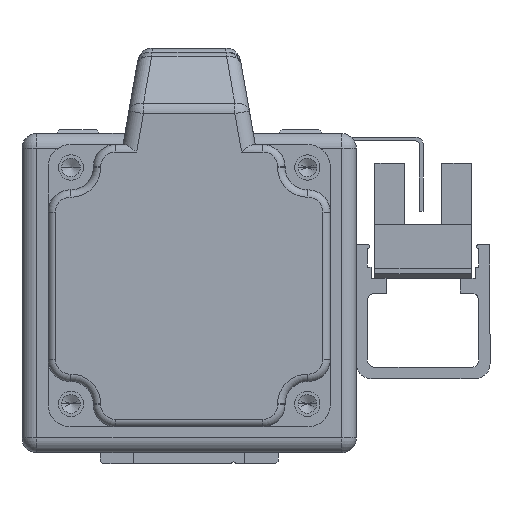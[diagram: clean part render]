
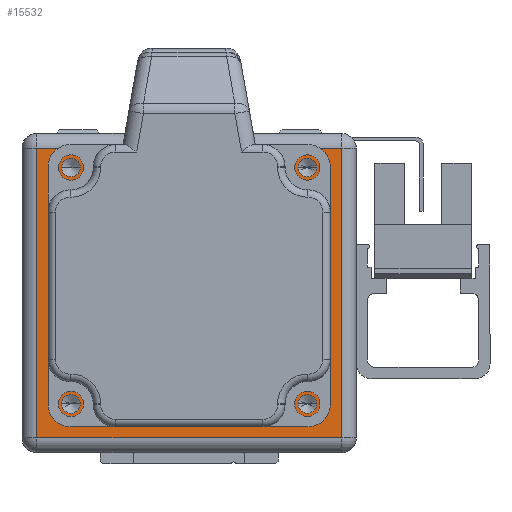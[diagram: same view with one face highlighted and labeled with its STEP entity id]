
A CAD part, left-side view. The second image highlights one B-rep face of the part: STEP entity #15532.
In plain terms, the highlighted planar face has unit normal (-1, 0, 0) as drawn and (0, 0, -1) by its records, which use the part's own axes.
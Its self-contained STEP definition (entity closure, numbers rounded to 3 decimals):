
#346 = EDGE_LOOP ( 'NONE', ( #24810, #25019, #25111, #25214 ) ) ;
#402 = DIRECTION ( 'NONE',  ( -1., 0., 0. ) ) ;
#411 = EDGE_LOOP ( 'NONE', ( #23321, #23692 ) ) ;
#451 = DIRECTION ( 'NONE',  ( 0., 0., -1. ) ) ;
#490 = CARTESIAN_POINT ( 'NONE',  ( 15.91, 16.91, 0. ) ) ;
#512 = EDGE_LOOP ( 'NONE', ( #23919, #24146 ) ) ;
#543 = EDGE_LOOP ( 'NONE', ( #22287, #22727 ) ) ;
#915 = CARTESIAN_POINT ( 'NONE',  ( -17.16, 16.91, 0. ) ) ;
#927 = EDGE_LOOP ( 'NONE', ( #24175, #24529 ) ) ;
#1202 = EDGE_LOOP ( 'NONE', ( #22955, #23175 ) ) ;
#1483 = VERTEX_POINT ( 'NONE', #915 ) ;
#1565 = CARTESIAN_POINT ( 'NONE',  ( -20.5, 19.5, 0. ) ) ;
#1799 = CARTESIAN_POINT ( 'NONE',  ( -17.16, -14.91, 0. ) ) ;
#2160 = DIRECTION ( 'NONE',  ( -1., 0., 0. ) ) ;
#2193 = DIRECTION ( 'NONE',  ( 0., 0., -1. ) ) ;
#2198 = CARTESIAN_POINT ( 'NONE',  ( 15.91, 16.91, 0. ) ) ;
#2746 = CARTESIAN_POINT ( 'NONE',  ( -15.5, 1., 0. ) ) ;
#3103 = VERTEX_POINT ( 'NONE', #28943 ) ;
#3343 = AXIS2_PLACEMENT_3D ( 'NONE', #16887, #16858, #16818 ) ;
#4298 = VERTEX_POINT ( 'NONE', #28219 ) ;
#4381 = CARTESIAN_POINT ( 'NONE',  ( 0., 1., 0. ) ) ;
#4494 = CARTESIAN_POINT ( 'NONE',  ( 22.5, 19.5, 0. ) ) ;
#5873 = CIRCLE ( 'NONE', #14646, 1.25 ) ;
#5891 = DIRECTION ( 'NONE',  ( 0., 1., 0. ) ) ;
#6946 = DIRECTION ( 'NONE',  ( 1., 0., 0. ) ) ;
#7801 = VERTEX_POINT ( 'NONE', #31391 ) ;
#7961 = CIRCLE ( 'NONE', #17597, 1.25 ) ;
#7992 = VERTEX_POINT ( 'NONE', #28605 ) ;
#8232 = CARTESIAN_POINT ( 'NONE',  ( 14.66, 16.91, 0. ) ) ;
#8270 = CARTESIAN_POINT ( 'NONE',  ( 22.5, -19.5, 0. ) ) ;
#8572 = FACE_BOUND ( 'NONE', #927, .T. ) ;
#8578 = FACE_BOUND ( 'NONE', #512, .T. ) ;
#8604 = FACE_BOUND ( 'NONE', #411, .T. ) ;
#8692 = FACE_BOUND ( 'NONE', #1202, .T. ) ;
#8753 = FACE_OUTER_BOUND ( 'NONE', #346, .T. ) ;
#8809 = AXIS2_PLACEMENT_3D ( 'NONE', #28703, #28525, #28496 ) ;
#8959 = FACE_BOUND ( 'NONE', #543, .T. ) ;
#9762 = CIRCLE ( 'NONE', #18955, 1.25 ) ;
#9828 = EDGE_CURVE ( 'NONE', #3103, #25385, #10949, .T. ) ;
#10109 = EDGE_CURVE ( 'NONE', #10763, #1483, #9762, .T. ) ;
#10400 = CARTESIAN_POINT ( 'NONE',  ( 20.5, -21.5, 0. ) ) ;
#10454 = EDGE_CURVE ( 'NONE', #18722, #11420, #7961, .T. ) ;
#10652 = CARTESIAN_POINT ( 'NONE',  ( -15.91, -14.91, 0. ) ) ;
#10763 = VERTEX_POINT ( 'NONE', #20431 ) ;
#10885 = EDGE_CURVE ( 'NONE', #7801, #4298, #5873, .T. ) ;
#10949 = CIRCLE ( 'NONE', #20319, 1.25 ) ;
#10994 = CARTESIAN_POINT ( 'NONE',  ( 15.91, -14.91, 0. ) ) ;
#11420 = VERTEX_POINT ( 'NONE', #1799 ) ;
#11629 = VECTOR ( 'NONE', #5891, 1000. ) ;
#11758 = LINE ( 'NONE', #18533, #11629 ) ;
#12049 = LINE ( 'NONE', #8270, #12087 ) ;
#12087 = VECTOR ( 'NONE', #20660, 1000. ) ;
#12413 = VECTOR ( 'NONE', #27109, 1000. ) ;
#12441 = LINE ( 'NONE', #10400, #12413 ) ;
#12794 = VERTEX_POINT ( 'NONE', #27210 ) ;
#13216 = DIRECTION ( 'NONE',  ( -1., 0., 0. ) ) ;
#13276 = EDGE_CURVE ( 'NONE', #18444, #12794, #26695, .T. ) ;
#13409 = VERTEX_POINT ( 'NONE', #13828 ) ;
#13439 = VECTOR ( 'NONE', #24274, 1000. ) ;
#13540 = DIRECTION ( 'NONE',  ( -1., 0., 0. ) ) ;
#13577 = LINE ( 'NONE', #4494, #13439 ) ;
#13828 = CARTESIAN_POINT ( 'NONE',  ( 20.5, -19.5, 0. ) ) ;
#14027 = AXIS2_PLACEMENT_3D ( 'NONE', #4381, #21816, #6946 ) ;
#14091 = CIRCLE ( 'NONE', #14027, 15.5 ) ;
#14629 = AXIS2_PLACEMENT_3D ( 'NONE', #10994, #27629, #13540 ) ;
#14646 = AXIS2_PLACEMENT_3D ( 'NONE', #17322, #17250, #17214 ) ;
#14979 = AXIS2_PLACEMENT_3D ( 'NONE', #10652, #27339, #13216 ) ;
#15151 = DIRECTION ( 'NONE',  ( -1., 0., 0. ) ) ;
#15211 = CIRCLE ( 'NONE', #14629, 1.25 ) ;
#15222 = DIRECTION ( 'NONE',  ( 0., 0., -1. ) ) ;
#15363 = CARTESIAN_POINT ( 'NONE',  ( -15.91, 16.91, 0. ) ) ;
#15532 = ADVANCED_FACE ( 'NONE', ( #8959, #8692, #8604, #8578, #8572, #8753 ), #28561, .F. ) ;
#15625 = CIRCLE ( 'NONE', #14979, 1.25 ) ;
#15734 = AXIS2_PLACEMENT_3D ( 'NONE', #22332, #22233, #22133 ) ;
#16449 = VERTEX_POINT ( 'NONE', #1565 ) ;
#16561 = AXIS2_PLACEMENT_3D ( 'NONE', #490, #451, #402 ) ;
#16627 = CIRCLE ( 'NONE', #15734, 1.25 ) ;
#16818 = DIRECTION ( 'NONE',  ( 1., 0., 0. ) ) ;
#16858 = DIRECTION ( 'NONE',  ( 0., 0., 1. ) ) ;
#16887 = CARTESIAN_POINT ( 'NONE',  ( 0., 1., 0. ) ) ;
#17214 = DIRECTION ( 'NONE',  ( -1., 0., 0. ) ) ;
#17250 = DIRECTION ( 'NONE',  ( 0., 0., -1. ) ) ;
#17322 = CARTESIAN_POINT ( 'NONE',  ( 15.91, -14.91, 0. ) ) ;
#17582 = CIRCLE ( 'NONE', #16561, 1.25 ) ;
#17597 = AXIS2_PLACEMENT_3D ( 'NONE', #28497, #28444, #28247 ) ;
#18444 = VERTEX_POINT ( 'NONE', #2746 ) ;
#18533 = CARTESIAN_POINT ( 'NONE',  ( -20.5, -21.5, 0. ) ) ;
#18722 = VERTEX_POINT ( 'NONE', #28094 ) ;
#18777 = CARTESIAN_POINT ( 'NONE',  ( -20.5, -19.5, 0. ) ) ;
#18955 = AXIS2_PLACEMENT_3D ( 'NONE', #15363, #15222, #15151 ) ;
#20319 = AXIS2_PLACEMENT_3D ( 'NONE', #2198, #2193, #2160 ) ;
#20431 = CARTESIAN_POINT ( 'NONE',  ( -14.66, 16.91, 0. ) ) ;
#20660 = DIRECTION ( 'NONE',  ( -1., 0., 0. ) ) ;
#21816 = DIRECTION ( 'NONE',  ( 0., 0., 1. ) ) ;
#22133 = DIRECTION ( 'NONE',  ( -1., 0., 0. ) ) ;
#22233 = DIRECTION ( 'NONE',  ( 0., 0., -1. ) ) ;
#22287 = ORIENTED_EDGE ( 'NONE', *, *, #23971, .F. ) ;
#22332 = CARTESIAN_POINT ( 'NONE',  ( -15.91, 16.91, 0. ) ) ;
#22727 = ORIENTED_EDGE ( 'NONE', *, *, #9828, .F. ) ;
#22955 = ORIENTED_EDGE ( 'NONE', *, *, #24150, .F. ) ;
#23175 = ORIENTED_EDGE ( 'NONE', *, *, #10109, .F. ) ;
#23321 = ORIENTED_EDGE ( 'NONE', *, *, #24355, .F. ) ;
#23692 = ORIENTED_EDGE ( 'NONE', *, *, #10454, .F. ) ;
#23919 = ORIENTED_EDGE ( 'NONE', *, *, #24417, .F. ) ;
#23971 = EDGE_CURVE ( 'NONE', #25385, #3103, #17582, .T. ) ;
#24146 = ORIENTED_EDGE ( 'NONE', *, *, #10885, .F. ) ;
#24150 = EDGE_CURVE ( 'NONE', #1483, #10763, #16627, .T. ) ;
#24175 = ORIENTED_EDGE ( 'NONE', *, *, #13276, .T. ) ;
#24209 = VERTEX_POINT ( 'NONE', #18777 ) ;
#24274 = DIRECTION ( 'NONE',  ( 1., 0., 0. ) ) ;
#24355 = EDGE_CURVE ( 'NONE', #11420, #18722, #15625, .T. ) ;
#24417 = EDGE_CURVE ( 'NONE', #4298, #7801, #15211, .T. ) ;
#24529 = ORIENTED_EDGE ( 'NONE', *, *, #24610, .T. ) ;
#24610 = EDGE_CURVE ( 'NONE', #12794, #18444, #14091, .T. ) ;
#24644 = EDGE_CURVE ( 'NONE', #16449, #7992, #13577, .T. ) ;
#24810 = ORIENTED_EDGE ( 'NONE', *, *, #24644, .T. ) ;
#24819 = EDGE_CURVE ( 'NONE', #7992, #13409, #12441, .T. ) ;
#24896 = EDGE_CURVE ( 'NONE', #13409, #24209, #12049, .T. ) ;
#24938 = EDGE_CURVE ( 'NONE', #24209, #16449, #11758, .T. ) ;
#25019 = ORIENTED_EDGE ( 'NONE', *, *, #24819, .T. ) ;
#25111 = ORIENTED_EDGE ( 'NONE', *, *, #24896, .T. ) ;
#25214 = ORIENTED_EDGE ( 'NONE', *, *, #24938, .T. ) ;
#25385 = VERTEX_POINT ( 'NONE', #8232 ) ;
#26695 = CIRCLE ( 'NONE', #3343, 15.5 ) ;
#27109 = DIRECTION ( 'NONE',  ( 0., -1., 0. ) ) ;
#27210 = CARTESIAN_POINT ( 'NONE',  ( 15.5, 1., 0. ) ) ;
#27339 = DIRECTION ( 'NONE',  ( 0., 0., -1. ) ) ;
#27629 = DIRECTION ( 'NONE',  ( 0., 0., -1. ) ) ;
#28094 = CARTESIAN_POINT ( 'NONE',  ( -14.66, -14.91, 0. ) ) ;
#28219 = CARTESIAN_POINT ( 'NONE',  ( 14.66, -14.91, 0. ) ) ;
#28247 = DIRECTION ( 'NONE',  ( -1., 0., 0. ) ) ;
#28444 = DIRECTION ( 'NONE',  ( 0., 0., -1. ) ) ;
#28496 = DIRECTION ( 'NONE',  ( 1., 0., 0. ) ) ;
#28497 = CARTESIAN_POINT ( 'NONE',  ( -15.91, -14.91, 0. ) ) ;
#28525 = DIRECTION ( 'NONE',  ( 0., 0., 1. ) ) ;
#28561 = PLANE ( 'NONE',  #8809 ) ;
#28605 = CARTESIAN_POINT ( 'NONE',  ( 20.5, 19.5, 0. ) ) ;
#28703 = CARTESIAN_POINT ( 'NONE',  ( 22.5, -21.5, 0. ) ) ;
#28943 = CARTESIAN_POINT ( 'NONE',  ( 17.16, 16.91, 0. ) ) ;
#31391 = CARTESIAN_POINT ( 'NONE',  ( 17.16, -14.91, 0. ) ) ;
